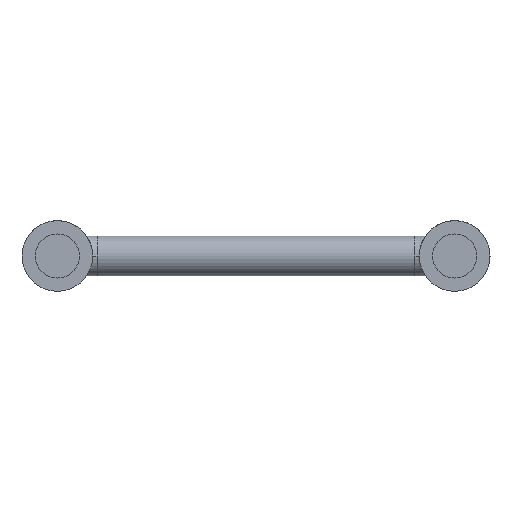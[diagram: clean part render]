
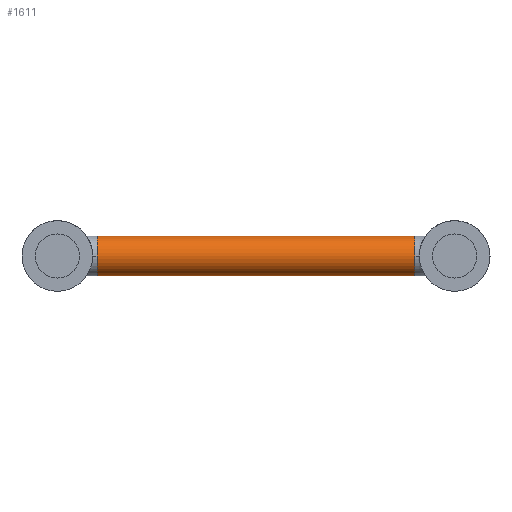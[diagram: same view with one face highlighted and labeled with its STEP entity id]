
A CAD part, front view. The second image highlights one B-rep face of the part: STEP entity #1611.
In plain terms, the highlighted cylindrical face has radius 4.5 mm (diameter 9 mm), a partial arc.
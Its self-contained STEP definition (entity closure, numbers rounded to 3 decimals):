
#1 = ORIENTED_EDGE ( 'NONE', *, *, #1259, .F. ) ;
#16 = EDGE_CURVE ( 'NONE', #1799, #427, #1335, .T. ) ;
#74 = CARTESIAN_POINT ( 'NONE',  ( 9., 33., 4.5 ) ) ;
#104 = LINE ( 'NONE', #1144, #1600 ) ;
#112 = AXIS2_PLACEMENT_3D ( 'NONE', #970, #1466, #611 ) ;
#127 = ORIENTED_EDGE ( 'NONE', *, *, #691, .T. ) ;
#160 = DIRECTION ( 'NONE',  ( 0., 0., 1. ) ) ;
#234 = DIRECTION ( 'NONE',  ( 0., 0., -1. ) ) ;
#253 = VECTOR ( 'NONE', #2075, 1000. ) ;
#268 = DIRECTION ( 'NONE',  ( 1., 0., 0. ) ) ;
#290 = AXIS2_PLACEMENT_3D ( 'NONE', #788, #1473, #580 ) ;
#313 = CARTESIAN_POINT ( 'NONE',  ( 81., 33., 0. ) ) ;
#410 = CARTESIAN_POINT ( 'NONE',  ( 81., 33., -4.5 ) ) ;
#427 = VERTEX_POINT ( 'NONE', #622 ) ;
#580 = DIRECTION ( 'NONE',  ( 0., 0., 1. ) ) ;
#583 = EDGE_CURVE ( 'NONE', #2092, #1799, #2132, .T. ) ;
#589 = EDGE_LOOP ( 'NONE', ( #837, #1322, #1591, #127, #1, #2141 ) ) ;
#611 = DIRECTION ( 'NONE',  ( 0., 0., 1. ) ) ;
#622 = CARTESIAN_POINT ( 'NONE',  ( 9., 33., -4.5 ) ) ;
#672 = DIRECTION ( 'NONE',  ( 1., 0., 0. ) ) ;
#691 = EDGE_CURVE ( 'NONE', #427, #1571, #104, .T. ) ;
#723 = CIRCLE ( 'NONE', #1303, 4.5 ) ;
#788 = CARTESIAN_POINT ( 'NONE',  ( 9., 33., 0. ) ) ;
#814 = EDGE_CURVE ( 'NONE', #1640, #1089, #723, .T. ) ;
#837 = ORIENTED_EDGE ( 'NONE', *, *, #1988, .F. ) ;
#838 = DIRECTION ( 'NONE',  ( 1., 0., 0. ) ) ;
#933 = CARTESIAN_POINT ( 'NONE',  ( 81., 28.5, 0. ) ) ;
#942 = CIRCLE ( 'NONE', #1009, 4.5 ) ;
#946 = FACE_OUTER_BOUND ( 'NONE', #589, .T. ) ;
#970 = CARTESIAN_POINT ( 'NONE',  ( 9., 33., 0. ) ) ;
#1009 = AXIS2_PLACEMENT_3D ( 'NONE', #1367, #2055, #1771 ) ;
#1066 = LINE ( 'NONE', #1225, #253 ) ;
#1089 = VERTEX_POINT ( 'NONE', #933 ) ;
#1144 = CARTESIAN_POINT ( 'NONE',  ( 9., 33., -4.5 ) ) ;
#1225 = CARTESIAN_POINT ( 'NONE',  ( 9., 33., 4.5 ) ) ;
#1259 = EDGE_CURVE ( 'NONE', #1089, #1571, #942, .T. ) ;
#1303 = AXIS2_PLACEMENT_3D ( 'NONE', #313, #672, #160 ) ;
#1322 = ORIENTED_EDGE ( 'NONE', *, *, #583, .T. ) ;
#1335 = CIRCLE ( 'NONE', #290, 4.5 ) ;
#1367 = CARTESIAN_POINT ( 'NONE',  ( 81., 33., 0. ) ) ;
#1466 = DIRECTION ( 'NONE',  ( 1., 0., 0. ) ) ;
#1473 = DIRECTION ( 'NONE',  ( 1., 0., 0. ) ) ;
#1481 = CARTESIAN_POINT ( 'NONE',  ( 81., 33., 4.5 ) ) ;
#1571 = VERTEX_POINT ( 'NONE', #410 ) ;
#1591 = ORIENTED_EDGE ( 'NONE', *, *, #16, .T. ) ;
#1600 = VECTOR ( 'NONE', #838, 1000. ) ;
#1611 = ADVANCED_FACE ( 'NONE', ( #946 ), #1655, .T. ) ;
#1622 = CARTESIAN_POINT ( 'NONE',  ( 9., 33., 0. ) ) ;
#1640 = VERTEX_POINT ( 'NONE', #1481 ) ;
#1655 = CYLINDRICAL_SURFACE ( 'NONE', #1916, 4.5 ) ;
#1771 = DIRECTION ( 'NONE',  ( 0., 0., 1. ) ) ;
#1799 = VERTEX_POINT ( 'NONE', #2198 ) ;
#1916 = AXIS2_PLACEMENT_3D ( 'NONE', #1622, #268, #234 ) ;
#1988 = EDGE_CURVE ( 'NONE', #2092, #1640, #1066, .T. ) ;
#2055 = DIRECTION ( 'NONE',  ( 1., 0., 0. ) ) ;
#2075 = DIRECTION ( 'NONE',  ( 1., 0., 0. ) ) ;
#2092 = VERTEX_POINT ( 'NONE', #74 ) ;
#2132 = CIRCLE ( 'NONE', #112, 4.5 ) ;
#2141 = ORIENTED_EDGE ( 'NONE', *, *, #814, .F. ) ;
#2198 = CARTESIAN_POINT ( 'NONE',  ( 9., 28.5, 0. ) ) ;
